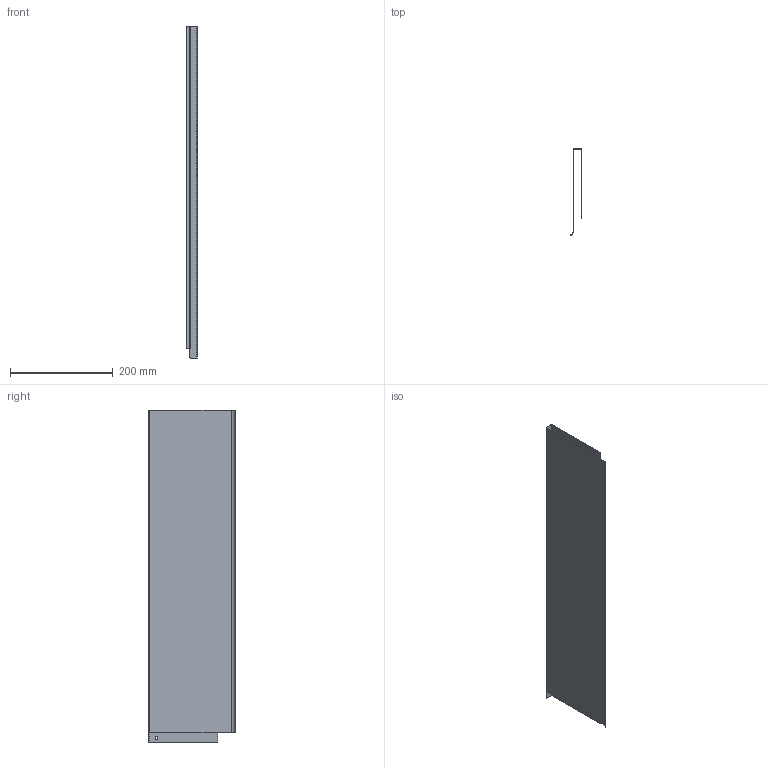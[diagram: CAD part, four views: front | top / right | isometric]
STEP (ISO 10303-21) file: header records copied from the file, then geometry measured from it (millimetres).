
FILE_DESCRIPTION (( 'STEP AP203' ), '1' );
FILE_NAME ('Nova Pro Duowing H186 HRW Classic rechts_NL650.step', '2014-02-14T11:58:57', ( 'test' ), ( '' ), 'SwSTEP 2.0', 'SolidWorks 2013', '' );
FILE_SCHEMA (( 'CONFIG_CONTROL_DESIGN' ));
Length unit declared in the file: millimetre
Products named in the file (1): Nova Pro Duowing H186 HRW Classic rechts_NL650
Bounding box: 20.72 x 169 x 647.5 mm (x, y, z)
Volume: 101764.3 mm3; surface area: 408031.7 mm2
Topology: 1 solids, 1 shells, 29 faces, 66 edges, 39 vertices
Faces by surface type: plane 20, cylinder 9
Entity records: 880 total; most frequent: DIRECTION 145, CARTESIAN_POINT 135, ORIENTED_EDGE 132, EDGE_CURVE 66, AXIS2_PLACEMENT_3D 49, LINE 47, VECTOR 47, VERTEX_POINT 39
